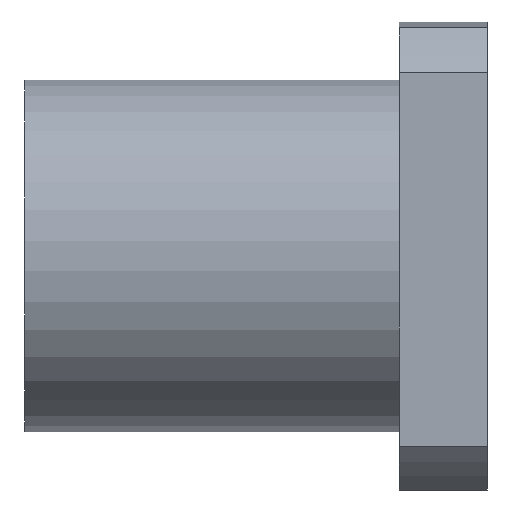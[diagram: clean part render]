
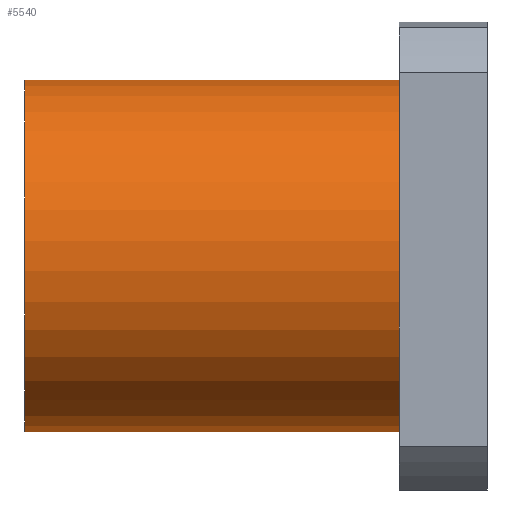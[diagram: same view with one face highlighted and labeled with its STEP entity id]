
A CAD part, front view. The second image highlights one B-rep face of the part: STEP entity #5540.
In plain terms, the highlighted cylindrical face has radius 16 mm (diameter 32 mm), a full revolution.
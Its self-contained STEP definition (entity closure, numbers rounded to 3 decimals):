
#82=CYLINDRICAL_SURFACE('',#5899,16.);
#117=CIRCLE('',#5900,16.);
#118=CIRCLE('',#5901,16.);
#1697=ORIENTED_EDGE('',*,*,#3294,.T.);
#1698=ORIENTED_EDGE('',*,*,#3295,.T.);
#3294=EDGE_CURVE('',#4091,#4091,#117,.T.);
#3295=EDGE_CURVE('',#4092,#4092,#118,.F.);
#4091=VERTEX_POINT('',#8808);
#4092=VERTEX_POINT('',#8810);
#4541=EDGE_LOOP('',(#1697));
#4542=EDGE_LOOP('',(#1698));
#4939=FACE_BOUND('',#4541,.T.);
#4940=FACE_BOUND('',#4542,.T.);
#5540=ADVANCED_FACE('',(#4939,#4940),#82,.T.);
#5899=AXIS2_PLACEMENT_3D('',#8806,#6425,#6426);
#5900=AXIS2_PLACEMENT_3D('',#8807,#6427,#6428);
#5901=AXIS2_PLACEMENT_3D('',#8809,#6429,#6430);
#6425=DIRECTION('',(1.,0.,0.));
#6426=DIRECTION('',(0.,0.707,-0.707));
#6427=DIRECTION('',(1.,0.,0.));
#6428=DIRECTION('',(0.,0.707,-0.707));
#6429=DIRECTION('',(1.,0.,0.));
#6430=DIRECTION('',(0.,0.707,-0.707));
#8806=CARTESIAN_POINT('',(-21.,0.,0.));
#8807=CARTESIAN_POINT('',(-21.,0.,0.));
#8808=CARTESIAN_POINT('',(-21.,11.314,-11.314));
#8809=CARTESIAN_POINT('',(13.,0.,0.));
#8810=CARTESIAN_POINT('',(13.,11.314,-11.314));
